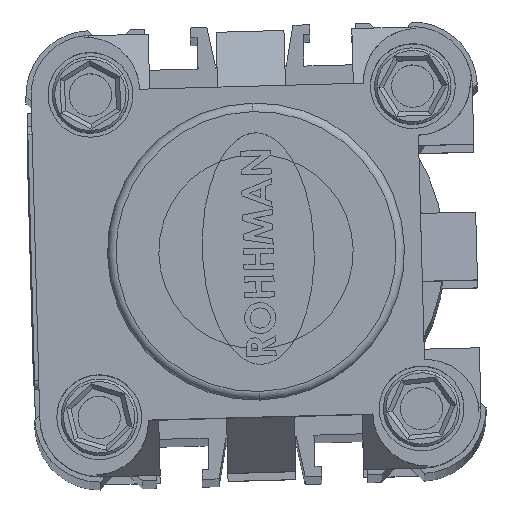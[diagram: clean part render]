
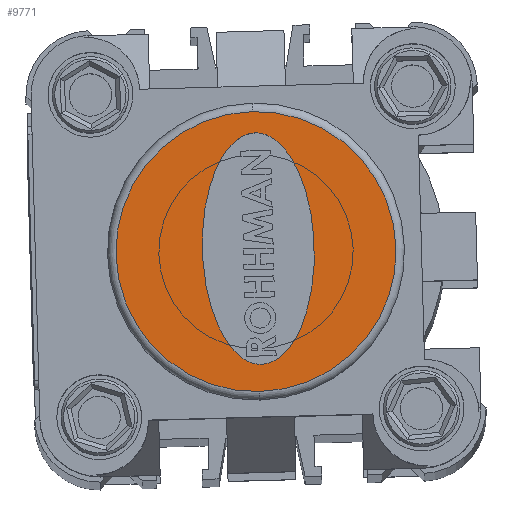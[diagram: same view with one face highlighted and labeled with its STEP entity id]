
A CAD part, top view. The second image highlights one B-rep face of the part: STEP entity #9771.
In plain terms, the highlighted planar face has unit normal (0, 0, 1) as drawn and (0, 0, -1) by its records, which use the part's own axes.
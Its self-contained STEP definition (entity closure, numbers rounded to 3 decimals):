
#1078 = DIRECTION ( 'NONE',  ( -1., 0., 0. ) ) ;
#1288 = CARTESIAN_POINT ( 'NONE',  ( 9.5, 26., -4. ) ) ;
#1678 = DIRECTION ( 'NONE',  ( -1., 0., 0. ) ) ;
#2646 = FACE_BOUND ( 'NONE', #14374, .T. ) ;
#3962 = EDGE_CURVE ( 'NONE', #14965, #15119, #13336, .T. ) ;
#4221 = EDGE_CURVE ( 'NONE', #17520, #4577, #16251, .T. ) ;
#4337 = EDGE_LOOP ( 'NONE', ( #7657, #18243 ) ) ;
#4577 = VERTEX_POINT ( 'NONE', #25840 ) ;
#5324 = CARTESIAN_POINT ( 'NONE',  ( 39.297, 25.719, -4. ) ) ;
#5428 = DIRECTION ( 'NONE',  ( 0., 0., -1. ) ) ;
#7371 = CARTESIAN_POINT ( 'NONE',  ( 39.297, 25.719, -4. ) ) ;
#7657 = ORIENTED_EDGE ( 'NONE', *, *, #3962, .T. ) ;
#8064 = FACE_OUTER_BOUND ( 'NONE', #4337, .T. ) ;
#8165 = DIRECTION ( 'NONE',  ( 0., 0., -1. ) ) ;
#8591 = DIRECTION ( 'NONE',  ( 0., 0., -1. ) ) ;
#8915 = CARTESIAN_POINT ( 'NONE',  ( 26., 26., -4. ) ) ;
#9771 = ADVANCED_FACE ( 'NONE', ( #2646, #8064 ), #22861, .T. ) ;
#9863 = CARTESIAN_POINT ( 'NONE',  ( 12.017, 38.913, -4. ) ) ;
#10119 = CIRCLE ( 'NONE', #14869, 16.5 ) ;
#13336 = CIRCLE ( 'NONE', #18653, 16.5 ) ;
#14374 = EDGE_LOOP ( 'NONE', ( #22940, #24926 ) ) ;
#14773 = CARTESIAN_POINT ( 'NONE',  ( 12.017, 25.719, -4. ) ) ;
#14869 = AXIS2_PLACEMENT_3D ( 'NONE', #8915, #8591, #1678 ) ;
#14965 = VERTEX_POINT ( 'NONE', #1288 ) ;
#15119 = VERTEX_POINT ( 'NONE', #17336 ) ;
#16251 =( BOUNDED_CURVE ( )  B_SPLINE_CURVE ( 3, ( #5324, #22605, #32763, #14773 ),
 .UNSPECIFIED., .F., .F. ) 
 B_SPLINE_CURVE_WITH_KNOTS ( ( 4, 4 ),
 ( 0., 3.142 ),
 .UNSPECIFIED. ) 
 CURVE ( )  GEOMETRIC_REPRESENTATION_ITEM ( )  RATIONAL_B_SPLINE_CURVE ( ( 1., 0.333, 0.333, 1. ) ) 
 REPRESENTATION_ITEM ( '' )  );
#16837 = CARTESIAN_POINT ( 'NONE',  ( 12.017, 25.719, -4. ) ) ;
#17336 = CARTESIAN_POINT ( 'NONE',  ( 42.5, 26., -4. ) ) ;
#17520 = VERTEX_POINT ( 'NONE', #24196 ) ;
#18243 = ORIENTED_EDGE ( 'NONE', *, *, #30576, .T. ) ;
#18653 = AXIS2_PLACEMENT_3D ( 'NONE', #30938, #8165, #1078 ) ;
#19282 = AXIS2_PLACEMENT_3D ( 'NONE', #28182, #5428, #30844 ) ;
#22605 = CARTESIAN_POINT ( 'NONE',  ( 39.297, 12.525, -4. ) ) ;
#22861 = PLANE ( 'NONE',  #19282 ) ;
#22940 = ORIENTED_EDGE ( 'NONE', *, *, #4221, .F. ) ;
#24196 = CARTESIAN_POINT ( 'NONE',  ( 39.297, 25.719, -4. ) ) ;
#24926 = ORIENTED_EDGE ( 'NONE', *, *, #27933, .F. ) ;
#25208 =( BOUNDED_CURVE ( )  B_SPLINE_CURVE ( 3, ( #16837, #9863, #29979, #7371 ),
 .UNSPECIFIED., .F., .F. ) 
 B_SPLINE_CURVE_WITH_KNOTS ( ( 4, 4 ),
 ( 3.142, 6.283 ),
 .UNSPECIFIED. ) 
 CURVE ( )  GEOMETRIC_REPRESENTATION_ITEM ( )  RATIONAL_B_SPLINE_CURVE ( ( 1., 0.333, 0.333, 1. ) ) 
 REPRESENTATION_ITEM ( '' )  );
#25840 = CARTESIAN_POINT ( 'NONE',  ( 12.017, 25.719, -4. ) ) ;
#27933 = EDGE_CURVE ( 'NONE', #4577, #17520, #25208, .T. ) ;
#28182 = CARTESIAN_POINT ( 'NONE',  ( 26., 26., -4. ) ) ;
#29979 = CARTESIAN_POINT ( 'NONE',  ( 39.297, 38.913, -4. ) ) ;
#30576 = EDGE_CURVE ( 'NONE', #15119, #14965, #10119, .T. ) ;
#30844 = DIRECTION ( 'NONE',  ( -1., 0., 0. ) ) ;
#30938 = CARTESIAN_POINT ( 'NONE',  ( 26., 26., -4. ) ) ;
#32763 = CARTESIAN_POINT ( 'NONE',  ( 12.017, 12.525, -4. ) ) ;
